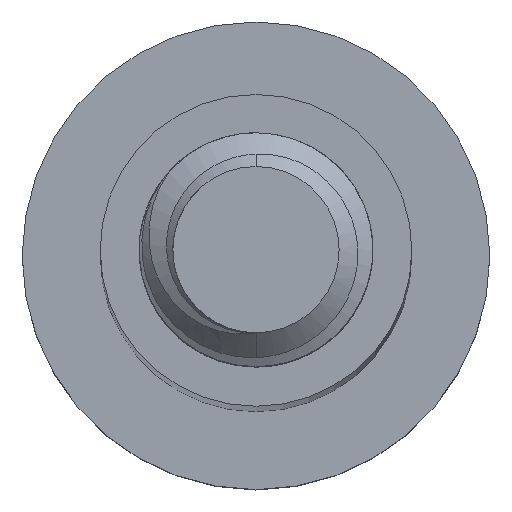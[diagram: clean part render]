
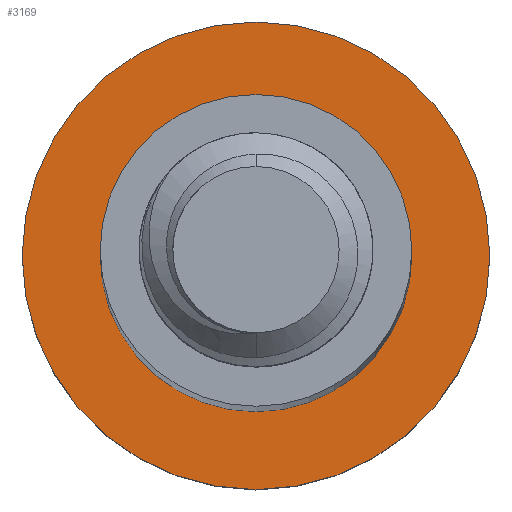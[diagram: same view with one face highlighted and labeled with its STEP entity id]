
A CAD part, top view. The second image highlights one B-rep face of the part: STEP entity #3169.
In plain terms, the highlighted planar face has unit normal (0, 0, 1).
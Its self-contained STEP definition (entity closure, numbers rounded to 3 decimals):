
#3 = CARTESIAN_POINT ( 'NONE',  ( 0., 0., -80. ) ) ;
#201 = CARTESIAN_POINT ( 'NONE',  ( 0., 0., -80. ) ) ;
#271 = CIRCLE ( 'NONE', #1375, 4. ) ;
#482 = PLANE ( 'NONE',  #540 ) ;
#540 = AXIS2_PLACEMENT_3D ( 'NONE', #3451, #1795, #554 ) ;
#554 = DIRECTION ( 'NONE',  ( -1., 0., 0. ) ) ;
#616 = EDGE_LOOP ( 'NONE', ( #1226, #1061 ) ) ;
#639 = ORIENTED_EDGE ( 'NONE', *, *, #1694, .T. ) ;
#931 = CARTESIAN_POINT ( 'NONE',  ( 6., 0., -80. ) ) ;
#944 = CARTESIAN_POINT ( 'NONE',  ( 0., 0., -80. ) ) ;
#1020 = EDGE_LOOP ( 'NONE', ( #639, #2080 ) ) ;
#1061 = ORIENTED_EDGE ( 'NONE', *, *, #2426, .F. ) ;
#1226 = ORIENTED_EDGE ( 'NONE', *, *, #2197, .F. ) ;
#1347 = VERTEX_POINT ( 'NONE', #2316 ) ;
#1375 = AXIS2_PLACEMENT_3D ( 'NONE', #3, #2263, #4181 ) ;
#1694 = EDGE_CURVE ( 'NONE', #1347, #1735, #3142, .T. ) ;
#1697 = AXIS2_PLACEMENT_3D ( 'NONE', #944, #3167, #3819 ) ;
#1735 = VERTEX_POINT ( 'NONE', #3509 ) ;
#1795 = DIRECTION ( 'NONE',  ( 0., 0., -1. ) ) ;
#2080 = ORIENTED_EDGE ( 'NONE', *, *, #4150, .T. ) ;
#2165 = DIRECTION ( 'NONE',  ( -1., 0., 0. ) ) ;
#2193 = CARTESIAN_POINT ( 'NONE',  ( 0., 0., -80. ) ) ;
#2197 = EDGE_CURVE ( 'NONE', #3285, #2601, #3076, .T. ) ;
#2263 = DIRECTION ( 'NONE',  ( 0., 0., -1. ) ) ;
#2316 = CARTESIAN_POINT ( 'NONE',  ( -4., 0., -80. ) ) ;
#2426 = EDGE_CURVE ( 'NONE', #2601, #3285, #3349, .T. ) ;
#2438 = FACE_OUTER_BOUND ( 'NONE', #616, .T. ) ;
#2601 = VERTEX_POINT ( 'NONE', #4130 ) ;
#2874 = AXIS2_PLACEMENT_3D ( 'NONE', #201, #3124, #2165 ) ;
#3076 = CIRCLE ( 'NONE', #3988, 6. ) ;
#3124 = DIRECTION ( 'NONE',  ( 0., 0., -1. ) ) ;
#3142 = CIRCLE ( 'NONE', #1697, 4. ) ;
#3167 = DIRECTION ( 'NONE',  ( 0., 0., -1. ) ) ;
#3169 = ADVANCED_FACE ( 'NONE', ( #3494, #2438 ), #482, .F. ) ;
#3285 = VERTEX_POINT ( 'NONE', #931 ) ;
#3349 = CIRCLE ( 'NONE', #2874, 6. ) ;
#3451 = CARTESIAN_POINT ( 'NONE',  ( 0., 0., -80. ) ) ;
#3453 = DIRECTION ( 'NONE',  ( 0., 0., -1. ) ) ;
#3494 = FACE_BOUND ( 'NONE', #1020, .T. ) ;
#3496 = DIRECTION ( 'NONE',  ( -1., 0., 0. ) ) ;
#3509 = CARTESIAN_POINT ( 'NONE',  ( 4., 0., -80. ) ) ;
#3819 = DIRECTION ( 'NONE',  ( -1., 0., 0. ) ) ;
#3988 = AXIS2_PLACEMENT_3D ( 'NONE', #2193, #3453, #3496 ) ;
#4130 = CARTESIAN_POINT ( 'NONE',  ( -6., 0., -80. ) ) ;
#4150 = EDGE_CURVE ( 'NONE', #1735, #1347, #271, .T. ) ;
#4181 = DIRECTION ( 'NONE',  ( -1., 0., 0. ) ) ;
